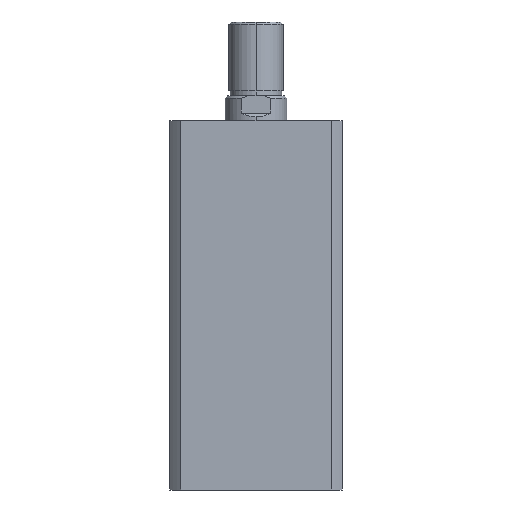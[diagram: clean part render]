
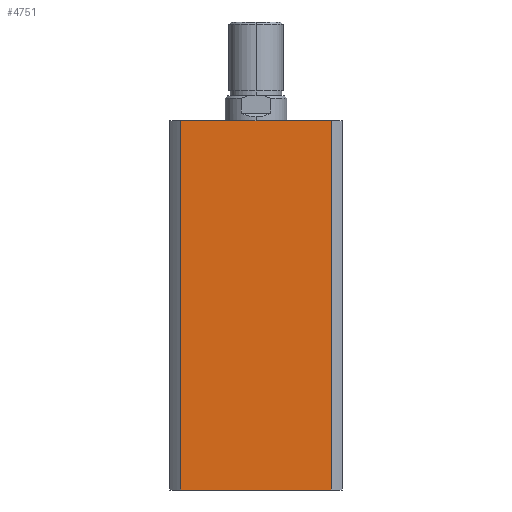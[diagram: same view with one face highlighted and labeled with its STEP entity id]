
A CAD part, left-side view. The second image highlights one B-rep face of the part: STEP entity #4751.
In plain terms, the highlighted planar face has unit normal (-1, 0, 0).
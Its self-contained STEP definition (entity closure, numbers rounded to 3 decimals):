
#712 = CARTESIAN_POINT ( 'NONE',  ( -35., 30.615, 0. ) ) ;
#787 = CARTESIAN_POINT ( 'NONE',  ( -35., -30.615, 0. ) ) ;
#1093 = VECTOR ( 'NONE', #2237, 1000. ) ;
#1110 = LINE ( 'NONE', #2236, #1093 ) ;
#1146 = LINE ( 'NONE', #3945, #1159 ) ;
#1159 = VECTOR ( 'NONE', #3938, 1000. ) ;
#1187 = VECTOR ( 'NONE', #4844, 1000. ) ;
#1190 = LINE ( 'NONE', #4868, #1187 ) ;
#1215 = DIRECTION ( 'NONE',  ( 0., -1., 0. ) ) ;
#1224 = CARTESIAN_POINT ( 'NONE',  ( -35., 0., 0. ) ) ;
#1483 = FACE_OUTER_BOUND ( 'NONE', #3083, .T. ) ;
#1573 = VECTOR ( 'NONE', #1215, 1000. ) ;
#1579 = LINE ( 'NONE', #1224, #1573 ) ;
#1771 = CARTESIAN_POINT ( 'NONE',  ( -35., -30.615, 150. ) ) ;
#1772 = CARTESIAN_POINT ( 'NONE',  ( -35., 30.615, 150. ) ) ;
#1967 = EDGE_CURVE ( 'NONE', #5099, #5178, #1579, .T. ) ;
#2036 = EDGE_CURVE ( 'NONE', #2935, #5178, #1190, .T. ) ;
#2236 = CARTESIAN_POINT ( 'NONE',  ( -35., 30.615, 150. ) ) ;
#2237 = DIRECTION ( 'NONE',  ( 0., 0., -1. ) ) ;
#2833 = AXIS2_PLACEMENT_3D ( 'NONE', #3503, #3511, #3512 ) ;
#2934 = VERTEX_POINT ( 'NONE', #1772 ) ;
#2935 = VERTEX_POINT ( 'NONE', #1771 ) ;
#3083 = EDGE_LOOP ( 'NONE', ( #4951, #3934, #3933, #3932 ) ) ;
#3503 = CARTESIAN_POINT ( 'NONE',  ( -35., 0., 150. ) ) ;
#3508 = PLANE ( 'NONE',  #2833 ) ;
#3511 = DIRECTION ( 'NONE',  ( 1., 0., 0. ) ) ;
#3512 = DIRECTION ( 'NONE',  ( 0., 1., 0. ) ) ;
#3932 = ORIENTED_EDGE ( 'NONE', *, *, #4284, .T. ) ;
#3933 = ORIENTED_EDGE ( 'NONE', *, *, #4246, .F. ) ;
#3934 = ORIENTED_EDGE ( 'NONE', *, *, #2036, .F. ) ;
#3938 = DIRECTION ( 'NONE',  ( 0., -1., 0. ) ) ;
#3945 = CARTESIAN_POINT ( 'NONE',  ( -35., 0., 150. ) ) ;
#4246 = EDGE_CURVE ( 'NONE', #2934, #2935, #1146, .T. ) ;
#4284 = EDGE_CURVE ( 'NONE', #2934, #5099, #1110, .T. ) ;
#4751 = ADVANCED_FACE ( 'NONE', ( #1483 ), #3508, .F. ) ;
#4844 = DIRECTION ( 'NONE',  ( 0., 0., -1. ) ) ;
#4868 = CARTESIAN_POINT ( 'NONE',  ( -35., -30.615, 150. ) ) ;
#4951 = ORIENTED_EDGE ( 'NONE', *, *, #1967, .T. ) ;
#5099 = VERTEX_POINT ( 'NONE', #712 ) ;
#5178 = VERTEX_POINT ( 'NONE', #787 ) ;
